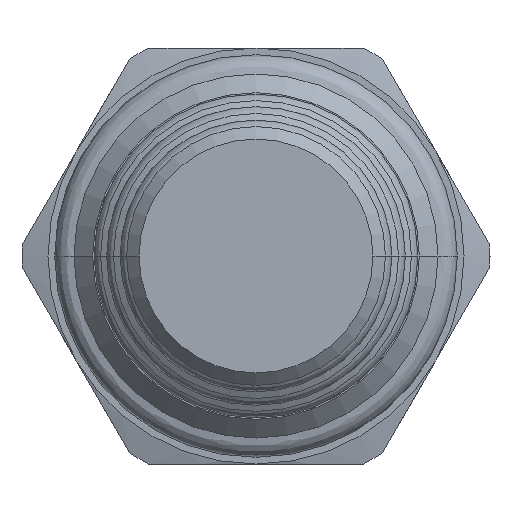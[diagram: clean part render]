
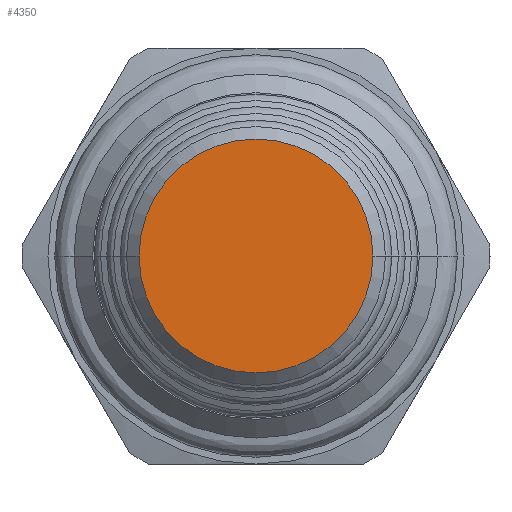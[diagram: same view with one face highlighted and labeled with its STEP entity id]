
A CAD part, front view. The second image highlights one B-rep face of the part: STEP entity #4350.
In plain terms, the highlighted planar face has unit normal (0, -1, 0).
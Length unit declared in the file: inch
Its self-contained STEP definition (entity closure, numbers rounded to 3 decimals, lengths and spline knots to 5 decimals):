
#1712=CARTESIAN_POINT('',(0.,-2.438,0.));
#1713=DIRECTION('',(0.,-1.,0.));
#1714=DIRECTION('',(-1.,0.,0.));
#1715=AXIS2_PLACEMENT_3D('',#1712,#1713,#1714);
#1717=CARTESIAN_POINT('',(0.,-2.438,0.));
#1718=DIRECTION('',(0.,-1.,0.));
#1719=DIRECTION('',(1.,0.,0.));
#1720=AXIS2_PLACEMENT_3D('',#1717,#1718,#1719);
#2076=CARTESIAN_POINT('',(-0.281,-2.438,0.));
#2077=CARTESIAN_POINT('',(0.281,-2.438,0.));
#2078=VERTEX_POINT('',#2076);
#2079=VERTEX_POINT('',#2077);
#4341=CARTESIAN_POINT('',(0.,-2.438,0.));
#4342=DIRECTION('',(0.,1.,0.));
#4343=DIRECTION('',(1.,0.,0.));
#4344=AXIS2_PLACEMENT_3D('',#4341,#4342,#4343);
#4345=PLANE('',#4344);
#4346=ORIENTED_EDGE('',*,*,#4332,.F.);
#4347=ORIENTED_EDGE('',*,*,#4320,.F.);
#4348=EDGE_LOOP('',(#4346,#4347));
#4349=FACE_OUTER_BOUND('',#4348,.F.);
#4350=ADVANCED_FACE('',(#4349),#4345,.F.);
#1716=CIRCLE('',#1715,0.281);
#1721=CIRCLE('',#1720,0.281);
#4320=EDGE_CURVE('',#2079,#2078,#1721,.T.);
#4332=EDGE_CURVE('',#2078,#2079,#1716,.T.);
